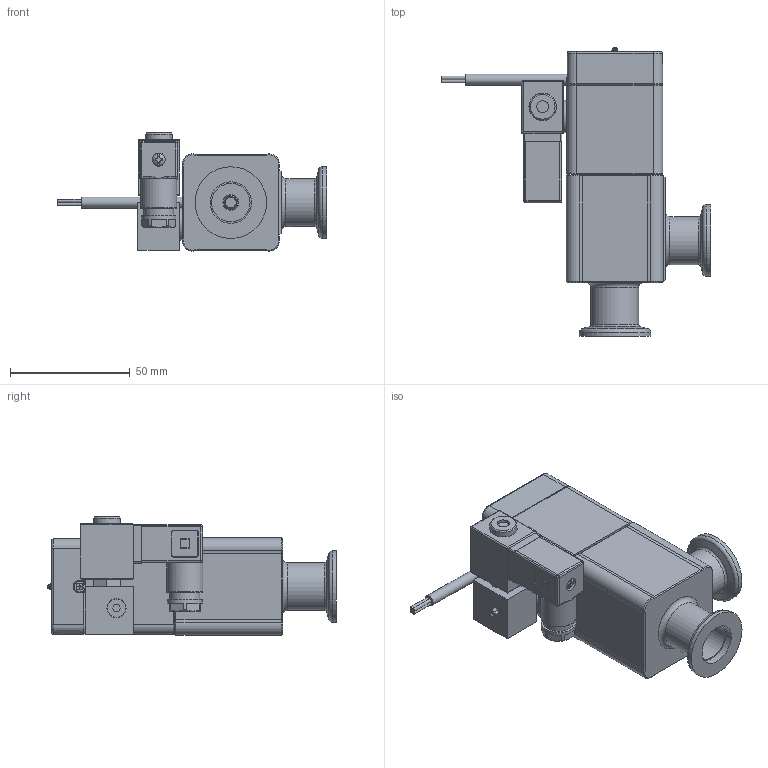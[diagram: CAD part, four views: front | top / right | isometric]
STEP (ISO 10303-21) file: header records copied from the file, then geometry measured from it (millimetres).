
FILE_DESCRIPTION(/* description */ (''),/* implementation_level */ '2;1');
FILE_NAME(/* name */ '1194347791_203.stp',/* time_stamp */ '2013-10-23T09:15:48+02:00',/* author */ (''),/* organization */ (''),/* preprocessor_version */ 'ST-DEVELOPER v11',/* originating_system */ 'SIEMENS PLM Software NX 7.5',/* authorisation */ '');
FILE_SCHEMA (('AP203_CONFIGURATION_CONTROLLED_3D_DESIGN_OF_MECHANICAL_PARTS_AND_ASSEMBLIES_MIM_LF'));
Length unit declared in the file: millimetre
Products named in the file (15): 467882; 437235; 244091.2; 236208.2; 233364; 239888_6.1; 236204_1.1; 242421.3; 243880.7; 244224.1; 244168.6; n-8501-400.2_MODELNX-ARRAGMNTArrangement 1; 443457; 402885_NX-ARRAGMNTLAGEMELDERZEICHNUNG; 323049
Assembly tree (19 placements, depth 4):
  323049
    244168.6
    244224.1  x4
    243880.7
    242421.3
    402885_NX-ARRAGMNTLAGEMELDERZEICHNUNG
      236204_1.1  x2
      239888_6.1
      233364
      236208.2  x2
    443457
      244091.2
      n-8501-400.2_MODELNX-ARRAGMNTArrangement 1
        437235
        467882
Bounding box: 112.43 x 120.6 x 49.39 mm (x, y, z)
Volume: 123376.5 mm3; surface area: 66475.2 mm2
Topology: 25 solids, 26 shells, 875 faces, 2124 edges, 1374 vertices
Faces by surface type: plane 504, cylinder 205, cone 115, bspline 32, torus 12, sphere 7
Full cylindrical faces by diameter (mm): 1.4 x8, 2 x8, 2.2 x4, 2.3 x1, 2.36 x4, 2.4 x4, 2.5 x10, 2.8 x1, 3 x16, 3.4 x4, 4 x2, 4.2 x1, 4.22 x1, 4.6 x1, 4.7 x3, 4.8 x1, 5 x5, 5.5 x5, 5.6 x2, 6 x4, 6.013 x2, 6.5 x4, 7.4 x1, 7.6 x1, 7.9 x1, 8 x1, 8.85 x1, 10.2 x1, 11.3 x1, 11.4 x1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
Entity records: 26225 total; most frequent: CARTESIAN_POINT 5390, DIRECTION 3606, ORIENTED_EDGE 3300, EDGE_CURVE 1650, AXIS2_PLACEMENT_3D 1300, VERTEX_POINT 1183, EDGE_LOOP 1073, LINE 1006
